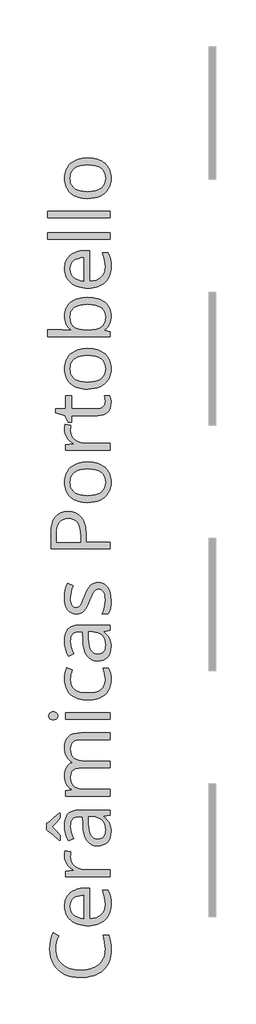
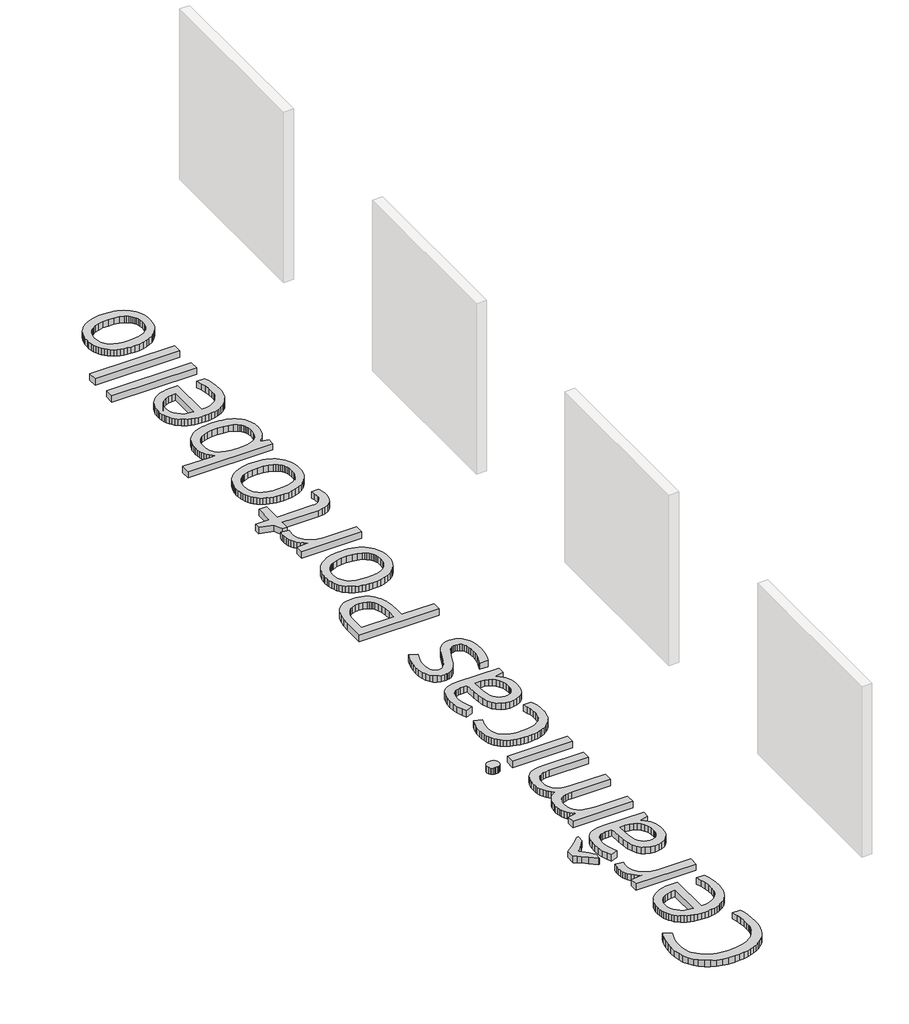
# One storey, part 2 of 7: 1 proxy.
"""IFC4 building model written with IfcOpenShell, lengths in millimetres."""

from ifc_helpers import new_model, si_unit, origin, origin_with_axes, place, context, project, spatial, polyline, outline, extrude, element, save

model = new_model("IFC4")

# Units and contexts
model_context = context("Model", 3, world=origin())
ifc_project = project(units=[si_unit("LENGTHUNIT", "METRE", prefix="MILLI")], contexts=[model_context])

# Site, building, storey
site = spatial("IfcSite", under=ifc_project)
building = spatial("IfcBuilding", under=site)
storey = spatial("IfcBuildingStorey", under=building, Name="PORTOBELLO - SHOWROOM", Elevation=0.0)

# Proxy
placement = place(None, origin())
element("IfcBuildingElementProxy", 1, Name="1200mm OpenSans", ObjectType="1200mm OpenSans", at=placement, inside=storey, context=model_context, shape_type="SweptSolid", body=[
    extrude(outline(polyline([(40739.6097026, -9834.3504783), (40741.7307499, -9882.5345887), (40748.0938918, -9928.1159796), (40758.6991283, -9971.0946512), (40773.5464594, -10011.4706033), (40792.6358851, -10049.2438361), (40815.9674053, -10084.4143495), (40843.5410202, -10116.9821434), (40875.3567297, -10146.947218), (40910.8624418, -10173.8194507), (40949.5060645, -10197.1087191), (40991.2875978, -10216.815023), (41036.2070417, -10232.9383627), (41084.2643962, -10245.4787379), (41135.4596613, -10254.4361488), (41189.7928371, -10259.8105954), (41247.2639234, -10261.6020775), (41306.2053772, -10259.8753817), (41361.7047065, -10254.695294), (41413.7619111, -10246.0618147), (41462.3769913, -10233.9749435), (41507.5499468, -10218.4346807), (41549.2807778, -10199.441026), (41587.5694842, -10176.9939797), (41622.416066, -10151.0935415), (41653.4712406, -10121.9988569), (41680.3857252, -10089.9690709), (41703.1595199, -10055.0041837), (41721.7926247, -10017.1041951), (41736.2850395, -9976.2691052), (41746.6367644, -9932.498914), (41752.8477993, -9885.7936215), (41754.9181443, -9836.1532277), (41752.1013484, -9771.0514413), (41743.6509607, -9701.5779877), (41729.5669813, -9627.7328669), (41709.8494102, -9549.5160789), (41826.6675689, -9549.5160789), (41845.7541778, -9615.5417743), (41859.3874699, -9688.8686047), (41867.5674451, -9769.49657), (41870.2941035, -9857.4256702), (41867.7561704, -9921.8739599), (41860.1423712, -9982.536476), (41847.4527057, -10039.4132185), (41829.6871741, -10092.5041872), (41806.8457763, -10141.8093823), (41778.9285123, -10187.3288038), (41745.9353822, -10229.0624515), (41707.8663859, -10267.0103256), (41665.1215084, -10300.8118762), (41618.1007347, -10330.1065534), (41566.8040649, -10354.8943571), (41511.231499, -10375.1752875), (41451.3830369, -10390.9493444), (41387.2586787, -10402.2165279), (41318.8584243, -10408.976838), (41246.1822738, -10411.2302747), (41155.3462402, -10406.8924091), (41070.3240734, -10393.8788121), (40991.1157732, -10372.1894838), (40917.7213397, -10341.8244242), (40851.2787585, -10303.2681222), (40792.926015, -10257.0050667), (40742.6631093, -10203.0352576), (40700.4900414, -10141.358695), (40667.127911, -10072.9330894), (40643.2978178, -9998.7161516), (40628.999762, -9918.7078814), (40624.2337433, -9832.9082788), (40628.2223263, -9741.4187486), (40640.1880752, -9655.8782913), (40660.13099, -9576.2869069), (40688.0510708, -9502.6445954), (40803.78758, -9561.7747745), (40775.7097586, -9629.9187005), (40755.6541719, -9698.0626264), (40743.6208199, -9766.2065524), (40739.6097026, -9834.3504783)])), origin_with_axes(), (0.0, 0.0, 1.0), 100.0),
    extrude(outline(polyline([(41870.2941035, -8926.4858988), (41868.3674152, -8975.1094293), (41862.58735, -9021.107706), (41852.9539081, -9064.480729), (41839.4670894, -9105.2284982), (41822.126894, -9143.3510136), (41800.9333218, -9178.8482753), (41775.8863728, -9211.7202832), (41746.9860471, -9241.9670374), (41714.6661311, -9269.0927817), (41679.3604115, -9292.6017602), (41641.0688883, -9312.4939727), (41599.7915615, -9328.7694193), (41555.528431, -9341.4281), (41508.2794969, -9350.4700147), (41458.0447592, -9355.8951636), (41404.8242178, -9357.7035466), (41351.0769356, -9356.0247362), (41300.1633501, -9350.9883052), (41252.0834612, -9342.5942535), (41206.8372689, -9330.842581), (41164.4247734, -9315.7332879), (41124.8459744, -9297.2663741), (41088.1008722, -9275.4418397), (41054.1894666, -9250.2596845), (41023.7258191, -9222.2494662), (40997.3239913, -9191.9407426), (40974.9839832, -9159.3335135), (40956.7057947, -9124.4277789), (40942.4894259, -9087.2235389), (40932.3348768, -9047.7207935), (40926.2421473, -9005.9195426), (40924.2112374, -8961.8197863), (40926.0083532, -8920.4748564), (40931.3997005, -8881.3495616), (40940.3852794, -8844.4439019), (40952.9650898, -8809.7578775), (40969.1391317, -8777.2914881), (40988.9074052, -8747.044734), (41012.2699103, -8719.017615), (41039.2266469, -8693.2101311), (41069.1297519, -8670.056069), (41101.3313624, -8649.9892151), (41135.8314784, -8633.0095695), (41172.6300998, -8619.1171322), (41211.7272266, -8608.3119032), (41253.1228589, -8600.5938825), (41296.8169966, -8595.9630701), (41342.8096397, -8594.419466), (41431.8654583, -8594.419466), (41431.8654583, -9216.0074466), (41506.4091445, -9209.5062817), (41571.398259, -9193.9688356), (41626.832802, -9169.3951083), (41650.9671091, -9153.7196393), (41672.7127733, -9135.7850999), (41691.9796571, -9115.7548644), (41708.6776231, -9093.7923069), (41734.3668015, -9044.070226), (41749.7803086, -8986.6188572), (41754.9181443, -8921.4382005), (41751.1098362, -8848.8099356), (41739.6849121, -8776.5872892), (41720.643372, -8704.7702614), (41693.9852158, -8633.3588522), (41813.6877735, -8633.3588522), (41839.6924331, -8703.8463523), (41857.1340332, -8770.3678039), (41867.0040859, -8841.6665412), (41870.2941035, -8926.4858988)]), holes=[polyline([(41039.5871967, -8963.2619858), (41044.1842076, -9014.786816), (41057.9752402, -9060.8357951), (41080.9602946, -9101.408923), (41113.1393708, -9136.5061996), (41153.430819, -9165.5417316), (41200.7529898, -9187.9296252), (41255.1058832, -9203.6698806), (41316.489499, -9212.7624977), (41316.489499, -8740.8027143), (41253.3482025, -8744.408213), (41198.0488658, -8755.2247092), (41150.5914888, -8773.2522028), (41110.9760715, -8798.4906939), (41079.7434388, -8830.421892), (41057.4344154, -8868.5275067), (41044.0490014, -8912.807538), (41039.5871967, -8963.2619858)])]), origin_with_axes(), (0.0, 0.0, 1.0), 100.0),
    extrude(outline(polyline([(40924.2112374, -7947.2324444), (40926.4646742, -7889.7247397), (40933.2249843, -7838.3463828), (41051.8458924, -7857.4555261), (41042.6518706, -7910.6366323), (41039.5871967, -7956.967291), (41045.2320557, -8010.2948706), (41062.1666325, -8059.5887985), (41090.3909272, -8104.8490747), (41129.9049399, -8146.0756992), (41177.8468057, -8180.384273), (41231.3546603, -8204.8903972), (41290.4285035, -8219.5940717), (41355.0683354, -8224.4952965), (41847.2189117, -8224.4952965), (41847.2189117, -8360.7831484), (40947.2864293, -8360.7831484), (40947.2864293, -8248.2915881), (41108.8127723, -8232.7879436), (41108.8127723, -8226.2980459), (41067.0115214, -8199.5948209), (41030.3030375, -8170.3226781), (40998.6873205, -8138.4816175), (40972.1643705, -8104.071639), (40951.1848748, -8067.4983613), (40936.1995207, -8029.167403), (40927.2083083, -7989.078764), (40924.2112374, -7947.2324444)])), origin_with_axes(), (0.0, 0.0, 1.0), 100.0),
    extrude(outline(polyline([(41847.2189117, -7107.8723406), (41715.6182081, -7135.274131), (41715.6182081, -7142.1245785), (41757.2166497, -7176.16274), (41791.5139563, -7210.1332983), (41818.5101281, -7244.0362535), (41838.2051649, -7277.8716056), (41852.2440755, -7313.7801195), (41862.2718689, -7353.90256), (41868.2885449, -7398.2389272), (41870.2941035, -7446.789221), (41865.8210317, -7510.8994953), (41852.4018161, -7567.6635659), (41830.0364568, -7617.0814328), (41798.7249538, -7659.1530961), (41759.1658724, -7692.7518373), (41712.0577781, -7716.7509382), (41657.4006709, -7731.1503988), (41595.1945506, -7735.950219), (41528.6449311, -7729.0434355), (41470.5118978, -7708.323085), (41420.7954505, -7673.7891675), (41379.4955893, -7625.441683), (41346.6123141, -7563.2806315), (41322.1456251, -7487.306013), (41306.0955222, -7397.5178275), (41298.4620054, -7293.916075), (41293.4143071, -7139.2401796), (41239.3318262, -7139.2401796), (41191.6378384, -7142.1245785), (41150.5914888, -7150.7777755), (41116.1927775, -7165.1997704), (41088.4417045, -7185.3905633), (41067.0678573, -7211.9360477), (41051.8008237, -7245.4221171), (41042.6406035, -7285.8487716), (41039.5871967, -7333.2160111), (41043.9137952, -7392.210984), (41056.8935906, -7454.9015932), (41078.526583, -7521.2878385), (41108.8127723, -7591.36972), (41003.5322095, -7633.914605), (40970.4066899, -7563.3369674), (40945.303405, -7486.449707), (40929.4842793, -7406.2273603), (40924.2112374, -7325.6444638), (40928.7181109, -7249.4445016), (40942.2387311, -7183.8131576), (40964.7730981, -7128.7504317), (40979.4204367, -7105.1823006), (40996.321212, -7084.256324), (41015.7064012, -7065.8767308), (41037.8069817, -7049.9477501), (41062.6229534, -7036.4693819), (41090.1543164, -7025.441626), (41153.3632159, -7010.7379515), (41227.4336804, -7005.8367266), (41847.2189117, -7005.8367266), (41847.2189117, -7107.8723406)]), holes=[polyline([(41754.9181443, -7419.7479806), (41750.5577442, -7358.4995709), (41737.4765442, -7304.1917463), (41715.674544, -7256.8245068), (41685.1517439, -7216.3978523), (41646.786984, -7184.0610356), (41601.4591047, -7160.9633094), (41549.1681059, -7147.1046737), (41489.9139878, -7142.4851284), (41408.7902664, -7142.4851284), (41414.5590644, -7281.2968294), (41419.877175, -7358.1164867), (41430.0627089, -7423.4436168), (41445.1156661, -7477.2782196), (41465.0360466, -7519.6202953), (41490.477347, -7551.6416309), (41522.0930639, -7574.5140134), (41559.8831975, -7588.237443), (41603.8477476, -7592.8119195), (41638.5957416, -7589.961322), (41668.9269996, -7581.4095298), (41694.8415217, -7567.1565426), (41716.3393079, -7547.2023606), (41733.2175488, -7522.1328772), (41745.2734352, -7492.5339861), (41752.506967, -7458.4056872), (41754.9181443, -7419.7479806)])]), origin_with_axes(), (0.0, 0.0, 1.0), 100.0),
    extrude(outline(polyline([(40812.4407769, -7617.6898607), (40712.929012, -7529.3551419), (40643.7034365, -7472.0277121), (40594.4883788, -7435.9727248), (40555.0081678, -7411.4553335), (40555.0081678, -7275.5280315), (40595.5700284, -7250.8754339), (40646.5878354, -7212.9726285), (40716.1739609, -7153.9776556), (40812.4407769, -7066.0485554), (40831.91047, -7066.0485554), (40831.91047, -7163.397021), (40804.1931986, -7201.7505138), (40768.2734175, -7244.7010173), (40671.8263265, -7344.3930572), (40769.535342, -7444.8963342), (40805.139642, -7486.9679975), (40831.91047, -7523.5863439), (40831.91047, -7617.6898607), (40812.4407769, -7617.6898607)])), origin_with_axes(), (0.0, 0.0, 1.0), 100.0),
    extrude(outline(polyline([(41847.2189117, -5572.2904326), (41256.6382201, -5572.2904326), (41205.7668865, -5575.1748316), (41161.6783974, -5583.8280285), (41124.3727527, -5598.2500234), (41093.8499526, -5618.4408163), (41070.1099969, -5644.7158883), (41053.1528857, -5677.3907205), (41042.978619, -5716.465313), (41039.5871967, -5761.9396657), (41044.1954748, -5821.5881352), (41058.020309, -5872.898889), (41081.0616993, -5915.871927), (41113.3196457, -5950.5072491), (41155.1546981, -5977.1654053), (41206.9274064, -5996.2069455), (41268.6377706, -6007.6318696), (41340.2857906, -6011.4401776), (41847.2189117, -6011.4401776), (41847.2189117, -6148.0885794), (41256.6382201, -6148.0885794), (41205.7668865, -6150.9729784), (41161.6783974, -6159.6261753), (41124.3727527, -6174.0481702), (41093.8499526, -6194.2389631), (41070.1099969, -6220.5591038), (41053.1528857, -6253.3691422), (41042.978619, -6292.6690784), (41039.5871967, -6338.4589122), (41044.4320856, -6398.5130004), (41058.9667524, -6449.9589603), (41083.191197, -6492.7967921), (41098.9370859, -6510.9876599), (41117.1054194, -6527.0264956), (41162.0389473, -6553.2114302), (41219.3213083, -6571.9149548), (41288.9525025, -6583.1370696), (41370.9325298, -6586.8777745), (41847.2189117, -6586.8777745), (41847.2189117, -6723.1656264), (40947.2864293, -6723.1656264), (40947.2864293, -6612.1162656), (41062.6623886, -6590.1227234), (41062.6623886, -6583.6328257), (41031.8241073, -6562.1913754), (41004.5687903, -6536.8064109), (40980.8964378, -6507.4779322), (40960.8070495, -6474.2059393), (40944.7963817, -6437.9143412), (40933.3601905, -6399.5270469), (40926.4984757, -6359.0440565), (40924.2112374, -6316.46537), (40926.577346, -6265.8419144), (40933.6756716, -6219.7929353), (40945.5062143, -6178.3184328), (40962.0689741, -6141.4184067), (40983.3639509, -6109.0928572), (41009.3911449, -6081.3417842), (41040.1505559, -6058.1651877), (41075.642184, -6039.5630677), (41075.642184, -6033.07317), (41042.4941301, -6010.6176732), (41012.9966436, -5983.6327687), (40987.1497246, -5952.1184564), (40964.9533731, -5916.0747363), (40947.1286887, -5876.4255175), (40934.3967714, -5834.094709), (40926.7576209, -5789.0823108), (40924.2112374, -5741.3883229), (40929.1462638, -5669.5825623), (40943.951343, -5607.3989765), (40955.0551523, -5579.9154991), (40968.6264749, -5554.8375653), (40984.6653106, -5532.1651753), (41003.1716596, -5511.8983289), (41024.3933997, -5494.0257591), (41048.5784092, -5478.5361985), (41075.7266879, -5465.4296473), (41105.8382358, -5454.7061054), (41174.9511396, -5440.4080495), (41255.9171204, -5435.6420308), (41847.2189117, -5435.6420308), (41847.2189117, -5572.2904326)])), origin_with_axes(), (0.0, 0.0, 1.0), 100.0),
    extrude(outline(polyline([(41847.2189117, -5021.7307769), (41847.2189117, -5158.0186288), (40947.2864293, -5158.0186288), (40947.2864293, -5021.7307769), (41847.2189117, -5021.7307769)])), origin_with_axes(), (0.0, 0.0, 1.0), 100.0),
    extrude(outline(polyline([(40693.098769, -5169.5562248), (40670.8911503, -5168.1140253), (40651.8608773, -5163.7874268), (40636.0079501, -5156.5764293), (40623.3323686, -5146.4810329), (40606.7020058, -5120.5214421), (40601.1585515, -5088.7930533), (40606.7921432, -5058.2364515), (40623.6929185, -5032.1867232), (40636.4811718, -5021.7758457), (40652.3115647, -5014.3395045), (40671.1840971, -5009.8776999), (40693.098769, -5008.3904316), (40715.0359753, -5009.8776999), (40733.9761108, -5014.3395045), (40749.9191755, -5021.7758457), (40762.8651694, -5032.1867232), (40780.0363571, -5058.2364515), (40785.7600863, -5088.7930533), (40780.0363571, -5120.5214421), (40772.8816955, -5134.2223372), (40762.8651694, -5146.4810329), (40749.9191755, -5156.5764293), (40733.9761108, -5163.7874268), (40715.0359753, -5168.1140253), (40693.098769, -5169.5562248)])), origin_with_axes(), (0.0, 0.0, 1.0), 100.0),
    extrude(outline(polyline([(41870.2941035, -4351.8291134), (41868.3871327, -4399.7428113), (41862.6662203, -4444.8735149), (41853.1313662, -4487.2212242), (41839.7825706, -4526.7859391), (41822.6198333, -4563.5676597), (41801.6431543, -4597.566386), (41776.8525338, -4628.782118), (41748.2479716, -4657.2148556), (41716.1562161, -4682.5660185), (41680.9040157, -4704.5370264), (41642.4913703, -4723.1278792), (41600.9182799, -4738.338577), (41556.1847445, -4750.1691197), (41508.2907641, -4758.6195073), (41457.2363388, -4763.6897399), (41403.0214685, -4765.3798174), (41347.4094674, -4763.6643887), (41295.0480488, -4758.5181026), (41245.9372126, -4749.9409592), (41200.0769588, -4737.9329583), (41157.4672875, -4722.4941001), (41118.1081987, -4703.6243845), (41081.9996923, -4681.3238115), (41049.1417684, -4655.5923812), (41019.8611752, -4626.6892386), (40994.4846611, -4594.8735291), (40973.0122261, -4560.1452527), (40955.4438702, -4522.5044094), (40941.7795934, -4481.9509991), (40932.0193956, -4438.4850218), (40926.163277, -4392.1064777), (40924.2112374, -4342.8153666), (40927.5463238, -4277.2403584), (40937.5515827, -4211.7554878), (40952.0637151, -4153.3914772), (40968.9194217, -4109.179049), (41081.7715318, -4151.3633841), (41065.2313064, -4199.181311), (41051.6656175, -4251.0554239), (41042.6068019, -4301.8478873), (41039.5871967, -4346.4208653), (41045.2264221, -4411.4043462), (41062.1440981, -4467.7233631), (41090.3402249, -4515.3779158), (41129.8148024, -4554.3680044), (41180.5678306, -4584.6936288), (41242.5993095, -4606.3547892), (41315.909239, -4619.3514854), (41400.4976193, -4623.6837174), (41481.148119, -4619.4585236), (41551.8384284, -4606.7829421), (41612.5685476, -4585.656973), (41663.3384766, -4556.0806163), (41684.8024612, -4538.1629777), (41703.4045812, -4518.2116125), (41719.1448366, -4496.2265206), (41732.0232273, -4472.2077021), (41742.0397535, -4446.155157), (41749.194415, -4418.0688853), (41754.9181443, -4355.795162), (41751.8760047, -4298.4902666), (41742.749586, -4240.5093402), (41727.5388883, -4181.8523827), (41706.2439114, -4122.5193943), (41824.8648196, -4122.5193943), (41844.7401313, -4171.0584209), (41858.9367825, -4225.456383), (41867.4547733, -4285.7132805), (41870.2941035, -4351.8291134)])), origin_with_axes(), (0.0, 0.0, 1.0), 100.0),
    extrude(outline(polyline([(41847.2189117, -3346.6160682), (41715.6182081, -3374.0178585), (41715.6182081, -3380.8683061), (41757.2166497, -3414.9064675), (41791.5139563, -3448.8770258), (41818.5101281, -3482.779981), (41838.2051649, -3516.6153332), (41852.2440755, -3552.523847), (41862.2718689, -3592.6462876), (41868.2885449, -3636.9826547), (41870.2941035, -3685.5329485), (41865.8210317, -3749.6432228), (41852.4018161, -3806.4072934), (41830.0364568, -3855.8251603), (41798.7249538, -3897.8968236), (41759.1658724, -3931.4955648), (41712.0577781, -3955.4946658), (41657.4006709, -3969.8941263), (41595.1945506, -3974.6939465), (41528.6449311, -3967.787163), (41470.5118978, -3947.0668125), (41420.7954505, -3912.532895), (41379.4955893, -3864.1854105), (41346.6123141, -3802.024359), (41322.1456251, -3726.0497405), (41306.0955222, -3636.261555), (41298.4620054, -3532.6598025), (41293.4143071, -3377.9839071), (41239.3318262, -3377.9839071), (41191.6378384, -3380.8683061), (41150.5914888, -3389.521503), (41116.1927775, -3403.9434979), (41088.4417045, -3424.1342908), (41067.0678573, -3450.6797752), (41051.8008237, -3484.1658446), (41042.6406035, -3524.5924991), (41039.5871967, -3571.9597386), (41043.9137952, -3630.9547115), (41056.8935906, -3693.6453207), (41078.526583, -3760.031566), (41108.8127723, -3830.1134475), (41003.5322095, -3872.6583325), (40970.4066899, -3802.0806949), (40945.303405, -3725.1934345), (40929.4842793, -3644.9710879), (40924.2112374, -3564.3881913), (40928.7181109, -3488.1882291), (40942.2387311, -3422.5568851), (40964.7730981, -3367.4941592), (40979.4204367, -3343.9260281), (40996.321212, -3323.0000515), (41015.7064012, -3304.6204584), (41037.8069817, -3288.6914777), (41062.6229534, -3275.2131094), (41090.1543164, -3264.1853535), (41153.3632159, -3249.481679), (41227.4336804, -3244.5804542), (41847.2189117, -3244.5804542), (41847.2189117, -3346.6160682)]), holes=[polyline([(41754.9181443, -3658.4917081), (41750.5577442, -3597.2432984), (41737.4765442, -3542.9354739), (41715.674544, -3495.5682343), (41685.1517439, -3455.1415799), (41646.786984, -3422.8047631), (41601.4591047, -3399.7070369), (41549.1681059, -3385.8484012), (41489.9139878, -3381.2288559), (41408.7902664, -3381.2288559), (41414.5590644, -3520.0405569), (41419.877175, -3596.8602142), (41430.0627089, -3662.1873443), (41445.1156661, -3716.0219471), (41465.0360466, -3758.3640228), (41490.477347, -3790.3853584), (41522.0930639, -3813.257741), (41559.8831975, -3826.9811705), (41603.8477476, -3831.555647), (41638.5957416, -3828.7050496), (41668.9269996, -3820.1532573), (41694.8415217, -3805.9002701), (41716.3393079, -3785.9460881), (41733.2175488, -3760.8766048), (41745.2734352, -3731.2777136), (41752.506967, -3697.1494147), (41754.9181443, -3658.4917081)])]), origin_with_axes(), (0.0, 0.0, 1.0), 100.0),
    extrude(outline(polyline([(41604.5688473, -2377.0974603), (41664.7243402, -2382.9901973), (41692.0557106, -2390.3561186), (41717.5561637, -2400.6684083), (41741.2256995, -2413.9270665), (41763.0643179, -2430.1320932), (41783.0720191, -2449.2834884), (41801.2488029, -2471.3812521), (41831.4561219, -2523.2666322), (41853.0327784, -2584.6389808), (41865.9787722, -2655.498298), (41870.2941035, -2735.8445837), (41866.7336735, -2820.8667506), (41856.0523836, -2896.0188647), (41838.2502336, -2961.300926), (41813.3272236, -3016.7129346), (41685.6925687, -3016.7129346), (41714.4013523, -2949.019696), (41736.3498258, -2876.4590341), (41750.2760646, -2802.9068601), (41754.9181443, -2732.239085), (41752.7773794, -2681.4578889), (41746.3550848, -2636.9187124), (41735.6512604, -2598.6215556), (41720.6659063, -2566.5664185), (41701.2863507, -2541.2490571), (41677.3999216, -2523.1652275), (41649.0066191, -2512.3149298), (41616.1064432, -2508.6981639), (41590.3947304, -2511.5712957), (41566.6209732, -2520.1906911), (41544.7851715, -2534.5563501), (41524.8873254, -2554.6682727), (41505.1021512, -2583.0953767), (41483.604365, -2622.40658), (41435.470957, -2733.6812845), (41390.9430477, -2841.9363838), (41352.5444863, -2913.595671), (41314.8219558, -2960.1516733), (41294.1692084, -2978.3256403), (41272.3221396, -2993.0969179), (41248.7624588, -3004.5331092), (41222.9718758, -3012.7018173), (41194.9503903, -3017.6030421), (41164.6980026, -3019.2367837), (41111.9225149, -3013.6031919), (41065.0059628, -2996.7024167), (41023.948346, -2968.5344578), (40988.7496647, -2929.0993155), (40960.5141028, -2879.8391892), (40940.3458443, -2822.1962782), (40928.2448892, -2756.1705828), (40924.2112374, -2681.7621028), (40927.9519424, -2609.1338378), (40939.1740572, -2537.2717413), (40957.8775818, -2466.1758133), (40984.0625163, -2395.8460537), (41095.472427, -2444.8808364), (41071.0226388, -2511.5825629), (41053.5585043, -2575.0393405), (41043.0800236, -2635.2511692), (41039.5871967, -2692.2180491), (41041.5138851, -2738.0754861), (41047.2939503, -2777.9387814), (41056.9273922, -2811.807935), (41070.4142108, -2839.6829471), (41087.3037189, -2861.4511456), (41107.1452291, -2876.9998589), (41129.9387414, -2886.3290869), (41155.6842558, -2889.4388295), (41189.71115, -2884.7967499), (41218.2396587, -2870.8705111), (41243.3880123, -2846.5784634), (41267.2744414, -2810.8389573), (41295.80295, -2750.3567161), (41334.8775425, -2651.8364634), (41364.4877008, -2577.7772661), (41394.1879966, -2516.7654673), (41423.9784298, -2468.801067), (41453.8590005, -2433.8840653), (41485.7225955, -2409.0399256), (41521.4621017, -2391.2941116), (41561.0775189, -2380.6466232), (41604.5688473, -2377.0974603)])), origin_with_axes(), (0.0, 0.0, 1.0), 100.0),
    extrude(outline(polyline([(40990.9129639, -932.0135704), (41034.3338724, -933.9627931), (41075.1802295, -939.8104614), (41113.4520351, -949.5565751), (41149.1492893, -963.2011344), (41182.2719921, -980.7441391), (41212.8201434, -1002.1855894), (41240.7937433, -1027.5254851), (41266.1927917, -1056.7638263), (41288.7975787, -1089.6358343), (41308.388394, -1125.8767301), (41324.9652378, -1165.4865138), (41338.52811, -1208.4651853), (41349.0770105, -1254.8127447), (41356.6119395, -1304.529192), (41361.1328969, -1357.6145272), (41362.6398827, -1414.0687502), (41362.6398827, -1555.7648502), (41847.2189117, -1555.7648502), (41847.2189117, -1695.297651), (40647.3089352, -1695.297651), (40647.3089352, -1383.0614612), (40652.6777481, -1277.3471118), (40668.784187, -1185.728009), (40695.6282517, -1108.2041527), (40733.2099424, -1044.7755431), (40781.5292589, -995.44218), (40840.5862013, -960.2040636), (40910.3807697, -939.0611937), (40990.9129639, -932.0135704)]), holes=[polyline([(41247.2639234, -1555.7648502), (41247.2639234, -1429.5723948), (41243.5457529, -1342.8150816), (41232.3912412, -1268.9474265), (41213.8003884, -1207.9694292), (41187.7731944, -1159.88109), (41171.7737938, -1140.3606945), (41153.5209565, -1123.4430184), (41133.0146825, -1109.1280618), (41110.2549718, -1097.4158245), (41057.9752402, -1081.7995081), (40996.6817619, -1076.5940693), (40941.3260892, -1081.4952942), (40893.5194295, -1096.1989687), (40853.2617828, -1120.7050928), (40820.553149, -1155.0136667), (40795.2357877, -1199.665515), (40777.1519581, -1255.2014626), (40766.3016604, -1321.6215094), (40762.6848945, -1398.9256556), (40762.6848945, -1555.7648502), (41247.2639234, -1555.7648502)])]), origin_with_axes(), (0.0, 0.0, 1.0), 100.0),
    extrude(outline(polyline([(41396.5315707, 75.3627741), (41450.7971434, 73.6304446), (41502.0036757, 68.4334562), (41550.1511677, 59.7718089), (41595.2396194, 47.6455026), (41637.2690307, 32.0545374), (41676.2394017, 12.9989133), (41712.1507324, -9.5213698), (41745.0030228, -35.5063118), (41774.3681198, -64.5390269), (41799.8178706, -96.2026294), (41821.3522751, -130.4971193), (41838.9713333, -167.4224965), (41852.6750453, -206.978761), (41862.463411, -249.1659129), (41868.3364304, -293.9839522), (41870.2941035, -341.4328788), (41866.699872, -400.1236378), (41855.9171774, -455.4117073), (41837.9460196, -507.2970875), (41812.7863988, -555.7797782), (41780.9115366, -599.8908017), (41742.7946548, -638.6611802), (41698.4357533, -672.0909137), (41647.834832, -700.1800022), (41591.8369299, -722.4214225), (41531.2870857, -738.3081512), (41466.1852993, -747.8401885), (41396.5315707, -751.0175343), (41342.2772653, -749.2992888), (41291.1045345, -744.1445523), (41243.0133784, -735.5533249), (41198.0037971, -723.5256065), (41156.0757904, -708.0613971), (41117.2293584, -689.1606967), (41081.4645011, -666.8235054), (41048.7812185, -641.0498231), (41019.5851292, -612.222734), (40994.2818518, -580.7253225), (40972.8713863, -546.5575885), (40955.3537327, -509.7195319), (40941.728891, -470.2111529), (40931.9968613, -428.0324514), (40926.1576434, -383.1834274), (40924.2112374, -335.6640809), (40926.2027121, -289.7305904), (40932.1771362, -246.2139109), (40942.1345096, -205.1140422), (40956.0748325, -166.4309843), (40973.9981046, -130.1647374), (40995.9043262, -96.3153013), (41021.7934971, -64.882676), (41051.6656175, -35.8668617), (41084.9347936, -9.7974158), (41121.0151321, 12.796104), (41159.9066328, 31.9136976), (41201.6092958, 47.5553651), (41246.1231211, 59.7211065), (41293.4481087, 68.4109218), (41343.5842586, 73.624811), (41396.5315707, 75.3627741)]), holes=[polyline([(41395.4499211, -609.3214343), (41478.015842, -605.0173702), (41550.1258165, -592.1051778), (41611.7798448, -570.5848573), (41638.685879, -556.596649), (41662.9779267, -540.4564086), (41684.5264152, -522.2317392), (41703.2017719, -501.990244), (41719.0039968, -479.731923), (41731.9330899, -455.4567761), (41741.9890512, -429.1648033), (41749.1718807, -400.8560047), (41754.9181443, -338.18793), (41749.194415, -275.4973208), (41742.0397535, -247.1603543), (41732.0232273, -220.8289464), (41719.1448366, -196.5030972), (41703.4045812, -174.1828066), (41684.8024612, -153.8680747), (41663.3384766, -135.5589015), (41639.1196656, -119.3341572), (41612.2530665, -105.2727122), (41550.5765039, -83.6397198), (41478.3087888, -70.6599244), (41395.4499211, -66.3333259), (41313.4360923, -70.6599244), (41241.9007441, -83.6397198), (41180.8438766, -105.2727122), (41154.2448731, -119.3341572), (41130.2654897, -135.5589015), (41109.0127648, -153.8962427), (41090.5937365, -174.2954784), (41075.0084049, -196.7566088), (41062.25677, -221.2796337), (41052.3388317, -247.8645533), (41045.25459, -276.5113674), (41039.5871967, -339.9906793), (41045.1757198, -402.6024182), (41052.1613735, -430.8407969), (41061.9412888, -457.0341818), (41074.5154656, -481.1825729), (41089.883904, -503.2859701), (41108.0466038, -523.3443736), (41129.0035652, -541.3577833), (41152.7266201, -557.286764), (41179.1876006, -571.0918806), (41240.3233384, -592.3305215), (41312.4107786, -605.0737061), (41395.4499211, -609.3214343)])]), origin_with_axes(), (0.0, 0.0, 1.0), 100.0),
    extrude(outline(polyline([(40924.2112374, 729.0396934), (40926.4646742, 786.5473981), (40933.2249843, 837.9257549), (41051.8458924, 818.8166117), (41042.6518706, 765.6355054), (41039.5871967, 719.3048468), (41045.2320557, 665.9772672), (41062.1666325, 616.6833393), (41090.3909272, 571.4230631), (41129.9049399, 530.1964385), (41177.8468057, 495.8878647), (41231.3546603, 471.3817405), (41290.4285035, 456.6780661), (41355.0683354, 451.7768412), (41847.2189117, 451.7768412), (41847.2189117, 315.4889893), (40947.2864293, 315.4889893), (40947.2864293, 427.9805496), (41108.8127723, 443.4841941), (41108.8127723, 449.9740919), (41067.0115214, 476.6773168), (41030.3030375, 505.9494596), (40998.6873205, 537.7905202), (40972.1643705, 572.2004987), (40951.1848748, 608.7737764), (40936.1995207, 647.1047348), (40927.2083083, 687.1933738), (40924.2112374, 729.0396934)])), origin_with_axes(), (0.0, 0.0, 1.0), 100.0),
    extrude(outline(polyline([(41754.9181443, 1301.5928913), (41749.5098962, 1372.2606663), (41738.3328501, 1426.3431472), (41845.0556124, 1426.3431472), (41854.9707339, 1398.6709445), (41863.0831061, 1360.3625205), (41868.4913542, 1318.9894226), (41870.2941035, 1282.1231982), (41866.0125738, 1220.2663606), (41853.1679846, 1166.6571014), (41831.7603359, 1121.2954205), (41801.7896277, 1084.181318), (41763.2558601, 1055.3147938), (41716.1590329, 1034.695848), (41660.4991463, 1022.3244805), (41596.2762002, 1018.2006913), (41062.6623886, 1018.2006913), (41062.6623886, 887.6816374), (40995.2395624, 887.6816374), (40936.830483, 1017.4795916), (40739.6097026, 1075.5281211), (40739.6097026, 1154.8490931), (40947.2864293, 1154.8490931), (40947.2864293, 1419.8532495), (41062.6623886, 1419.8532495), (41062.6623886, 1154.8490931), (41587.9835532, 1154.8490931), (41626.0102976, 1157.2940719), (41659.3273592, 1164.6290084), (41687.9347382, 1176.8539025), (41711.8324345, 1193.9687543), (41730.6824325, 1215.3651358), (41744.1467168, 1240.4346191), (41752.2252874, 1269.1772043), (41754.9181443, 1301.5928913)])), origin_with_axes(), (0.0, 0.0, 1.0), 100.0),
    extrude(outline(polyline([(41396.5315707, 2382.8819596), (41450.7971434, 2381.1496302), (41502.0036757, 2375.9526418), (41550.1511677, 2367.2909944), (41595.2396194, 2355.1646882), (41637.2690307, 2339.573723), (41676.2394017, 2320.5180988), (41712.1507324, 2297.9978158), (41745.0030228, 2272.0128738), (41774.3681198, 2242.9801586), (41799.8178706, 2211.3165561), (41821.3522751, 2177.0220663), (41838.9713333, 2140.0966891), (41852.6750453, 2100.5404245), (41862.463411, 2058.3532726), (41868.3364304, 2013.5352334), (41870.2941035, 1966.0863067), (41866.699872, 1907.3955478), (41855.9171774, 1852.1074782), (41837.9460196, 1800.2220981), (41812.7863988, 1751.7394074), (41780.9115366, 1707.6283839), (41742.7946548, 1668.8580054), (41698.4357533, 1635.4282719), (41647.834832, 1607.3391834), (41591.8369299, 1585.0977631), (41531.2870857, 1569.2110343), (41466.1852993, 1559.6789971), (41396.5315707, 1556.5016513), (41342.2772653, 1558.2198968), (41291.1045345, 1563.3746333), (41243.0133784, 1571.9658607), (41198.0037971, 1583.9935791), (41156.0757904, 1599.4577885), (41117.2293584, 1618.3584889), (41081.4645011, 1640.6956802), (41048.7812185, 1666.4693625), (41019.5851292, 1695.2964515), (40994.2818518, 1726.7938631), (40972.8713863, 1760.9615971), (40955.3537327, 1797.7996536), (40941.728891, 1837.3080327), (40931.9968613, 1879.4867342), (40926.1576434, 1924.3357582), (40924.2112374, 1971.8551047), (40926.2027121, 2017.7885951), (40932.1771362, 2061.3052747), (40942.1345096, 2102.4051434), (40956.0748325, 2141.0882012), (40973.9981046, 2177.3544482), (40995.9043262, 2211.2038843), (41021.7934971, 2242.6365095), (41051.6656175, 2271.6523239), (41084.9347936, 2297.7217698), (41121.0151321, 2320.3152895), (41159.9066328, 2339.4328832), (41201.6092958, 2355.0745507), (41246.1231211, 2367.2402921), (41293.4481087, 2375.9301074), (41343.5842586, 2381.1439966), (41396.5315707, 2382.8819596)]), holes=[polyline([(41395.4499211, 1698.1977513), (41478.015842, 1702.5018154), (41550.1258165, 1715.4140077), (41611.7798448, 1736.9343283), (41638.685879, 1750.9225366), (41662.9779267, 1767.062777), (41684.5264152, 1785.2874463), (41703.2017719, 1805.5289415), (41719.0039968, 1827.7872626), (41731.9330899, 1852.0624095), (41741.9890512, 1878.3543822), (41749.1718807, 1906.6631808), (41754.9181443, 1969.3312556), (41749.194415, 2032.0218647), (41742.0397535, 2060.3588313), (41732.0232273, 2086.6902392), (41719.1448366, 2111.0160884), (41703.4045812, 2133.336379), (41684.8024612, 2153.6511109), (41663.3384766, 2171.9602841), (41639.1196656, 2188.1850284), (41612.2530665, 2202.2464734), (41550.5765039, 2223.8794658), (41478.3087888, 2236.8592612), (41395.4499211, 2241.1858597), (41313.4360923, 2236.8592612), (41241.9007441, 2223.8794658), (41180.8438766, 2202.2464734), (41154.2448731, 2188.1850284), (41130.2654897, 2171.9602841), (41109.0127648, 2153.6229429), (41090.5937365, 2133.2237071), (41075.0084049, 2110.7625768), (41062.25677, 2086.2395518), (41052.3388317, 2059.6546323), (41045.25459, 2031.0078182), (41039.5871967, 1967.5285062), (41045.1757198, 1904.9167674), (41052.1613735, 1876.6783887), (41061.9412888, 1850.4850038), (41074.5154656, 1826.3366127), (41089.883904, 1804.2332154), (41108.0466038, 1784.174812), (41129.0035652, 1766.1614023), (41152.7266201, 1750.2324216), (41179.1876006, 1736.427305), (41240.3233384, 1715.1886641), (41312.4107786, 1702.4454795), (41395.4499211, 1698.1977513)])]), origin_with_axes(), (0.0, 0.0, 1.0), 100.0),
    extrude(outline(polyline([(40924.2112374, 3044.1304263), (40926.135109, 3087.6752738), (40931.9067238, 3128.713173), (40941.5260817, 3167.2441238), (40954.9931828, 3203.2681263), (40972.3080271, 3236.7851805), (40993.4706146, 3267.7952864), (41018.4809452, 3296.2984439), (41047.339019, 3322.2946531), (41079.712454, 3345.4909672), (41115.2688685, 3365.5944394), (41154.0082622, 3382.6050697), (41195.9306353, 3396.5228581), (41241.0359877, 3407.3478047), (41289.3243195, 3415.0799094), (41340.7956307, 3419.7191722), (41395.4499211, 3421.2655931), (41450.2140666, 3419.7050882), (41501.834668, 3415.0235735), (41550.3117251, 3407.2210489), (41595.645238, 3396.2975145), (41637.8352067, 3382.2529702), (41676.8816312, 3365.0874161), (41712.7845115, 3344.8008522), (41745.5438476, 3321.3932784), (41774.7821888, 3295.2196111), (41800.1220845, 3266.6347665), (41821.5635348, 3235.6387446), (41839.1065395, 3202.2315455), (41852.7510988, 3166.413169), (41862.4972125, 3128.1836153), (41868.3448808, 3087.5428844), (41870.2941035, 3044.4909761), (41868.2322089, 3001.1010524), (41862.0465252, 2959.6265498), (41851.7370523, 2920.0674685), (41837.3037902, 2882.4238083), (41818.5889983, 2847.2363942), (41795.4349362, 2815.0460509), (41767.8416038, 2785.8527784), (41735.809001, 2759.6565767), (41735.809001, 2749.5611802), (41847.2189117, 2720.7171904), (41847.2189117, 2623.0081749), (40578.0833596, 2623.0081749), (40578.0833596, 2759.2960268), (40879.1425034, 2759.2960268), (40975.2290444, 2757.6735524), (41060.8596392, 2752.8061291), (41060.8596392, 2759.2960268), (41028.8326701, 2784.8049303), (41001.0759634, 2813.1982328), (40977.5895194, 2844.4759342), (40958.3733379, 2878.6380347), (40943.4274189, 2915.6845341), (40932.7517626, 2955.6154325), (40926.3463687, 2998.4307299), (40924.2112374, 3044.1304263)]), holes=[polyline([(41039.5871967, 3025.021283), (41044.6799637, 2959.2998015), (41059.9582645, 2903.4709072), (41071.4169902, 2879.2661801), (41085.4220993, 2857.5345999), (41101.9735919, 2838.2761665), (41121.071468, 2821.4908798), (41143.1833156, 2806.9139612), (41168.776723, 2794.2806316), (41230.4082169, 2774.8447401), (41305.9659496, 2763.1832051), (41395.4499211, 2759.2960268), (41485.1930379, 2763.2958769), (41561.1676564, 2775.2954274), (41623.3737766, 2795.2946781), (41649.3136499, 2808.2941911), (41671.8113986, 2823.2936292), (41691.2895421, 2840.4958016), (41708.1705998, 2860.1035178), (41722.4545717, 2882.1167776), (41734.1414578, 2906.5355811), (41749.7239727, 2962.5898191), (41754.9181443, 3028.2662319), (41749.0930104, 3087.8358311), (41741.811593, 3114.5700408), (41731.6176087, 3139.2705239), (41718.5110575, 3161.9372804), (41702.4919393, 3182.5703102), (41683.5602542, 3201.1696134), (41661.7160021, 3217.73519), (41610.0334313, 3244.9454382), (41548.187861, 3264.3813298), (41476.1792911, 3276.0428647), (41394.0077216, 3279.930043), (41310.2812809, 3276.0428647), (41237.9346955, 3264.3813298), (41176.9679654, 3244.9454382), (41127.3810907, 3217.73519), (41106.8043968, 3201.1189111), (41088.9712621, 3182.3675009), (41073.8816866, 3161.4809594), (41061.5356702, 3138.4592867), (41051.9332131, 3113.3024827), (41045.0743151, 3086.0105474), (41039.5871967, 3025.021283)])]), origin_with_axes(), (0.0, 0.0, 1.0), 100.0),
    extrude(outline(polyline([(41870.2941035, 4041.7719241), (41868.3674152, 3993.1483936), (41862.58735, 3947.1501169), (41852.9539081, 3903.7770939), (41839.4670894, 3863.0293247), (41822.126894, 3824.9068093), (41800.9333218, 3789.4095476), (41775.8863728, 3756.5375397), (41746.9860471, 3726.2907855), (41714.6661311, 3699.1650412), (41679.3604115, 3675.6560627), (41641.0688883, 3655.7638502), (41599.7915615, 3639.4884036), (41555.528431, 3626.8297229), (41508.2794969, 3617.7878082), (41458.0447592, 3612.3626593), (41404.8242178, 3610.5542763), (41351.0769356, 3612.2330867), (41300.1633501, 3617.2695177), (41252.0834612, 3625.6635694), (41206.8372689, 3637.4152419), (41164.4247734, 3652.524535), (41124.8459744, 3670.9914488), (41088.1008722, 3692.8159832), (41054.1894666, 3717.9981384), (41023.7258191, 3746.0083567), (40997.3239913, 3776.3170803), (40974.9839832, 3808.9243095), (40956.7057947, 3843.830044), (40942.4894259, 3881.034284), (40932.3348768, 3920.5370294), (40926.2421473, 3962.3382803), (40924.2112374, 4006.4380366), (40926.0083532, 4047.7829666), (40931.3997005, 4086.9082613), (40940.3852794, 4123.813921), (40952.9650898, 4158.4999454), (40969.1391317, 4190.9663348), (40988.9074052, 4221.2130889), (41012.2699103, 4249.240208), (41039.2266469, 4275.0476918), (41069.1297519, 4298.201754), (41101.3313624, 4318.2686078), (41135.8314784, 4335.2482534), (41172.6300998, 4349.1406907), (41211.7272266, 4359.9459197), (41253.1228589, 4367.6639404), (41296.8169966, 4372.2947528), (41342.8096397, 4373.8383569), (41431.8654583, 4373.8383569), (41431.8654583, 3752.2503763), (41506.4091445, 3758.7515412), (41571.398259, 3774.2889873), (41626.832802, 3798.8627146), (41650.9671091, 3814.5381836), (41672.7127733, 3832.472723), (41691.9796571, 3852.5029585), (41708.6776231, 3874.465516), (41734.3668015, 3924.1875969), (41749.7803086, 3981.6389657), (41754.9181443, 4046.8196224), (41751.1098362, 4119.4478874), (41739.6849121, 4191.6705337), (41720.643372, 4263.4875615), (41693.9852158, 4334.8989707), (41813.6877735, 4334.8989707), (41839.6924331, 4264.4114706), (41857.1340332, 4197.890019), (41867.0040859, 4126.5912817), (41870.2941035, 4041.7719241)]), holes=[polyline([(41039.5871967, 4004.9958371), (41044.1842076, 3953.4710069), (41057.9752402, 3907.4220278), (41080.9602946, 3866.8488999), (41113.1393708, 3831.7516233), (41153.430819, 3802.7160913), (41200.7529898, 3780.3281977), (41255.1058832, 3764.5879423), (41316.489499, 3755.4953252), (41316.489499, 4227.4551086), (41253.3482025, 4223.8496099), (41198.0488658, 4213.0331137), (41150.5914888, 4195.0056201), (41110.9760715, 4169.767129), (41079.7434388, 4137.8359309), (41057.4344154, 4099.7303162), (41044.0490014, 4055.4502849), (41039.5871967, 4004.9958371)])]), origin_with_axes(), (0.0, 0.0, 1.0), 100.0),
    extrude(outline(polyline([(41847.2189117, 4739.075378), (41847.2189117, 4602.7875261), (40578.0833596, 4602.7875261), (40578.0833596, 4739.075378), (41847.2189117, 4739.075378)])), origin_with_axes(), (0.0, 0.0, 1.0), 100.0),
    extrude(outline(polyline([(41847.2189117, 5177.5040233), (41847.2189117, 5041.2161714), (40578.0833596, 5041.2161714), (40578.0833596, 5177.5040233), (41847.2189117, 5177.5040233)])), origin_with_axes(), (0.0, 0.0, 1.0), 100.0),
    extrude(outline(polyline([(41396.5315707, 6259.5141914), (41450.7971434, 6257.7818619), (41502.0036757, 6252.5848735), (41550.1511677, 6243.9232262), (41595.2396194, 6231.7969199), (41637.2690307, 6216.2059547), (41676.2394017, 6197.1503306), (41712.1507324, 6174.6300475), (41745.0030228, 6148.6451055), (41774.3681198, 6119.6123904), (41799.8178706, 6087.9487879), (41821.3522751, 6053.654298), (41838.9713333, 6016.7289208), (41852.6750453, 5977.1726563), (41862.463411, 5934.9855044), (41868.3364304, 5890.1674651), (41870.2941035, 5842.7185385), (41866.699872, 5784.0277795), (41855.9171774, 5728.73971), (41837.9460196, 5676.8543299), (41812.7863988, 5628.3716392), (41780.9115366, 5584.2606157), (41742.7946548, 5545.4902372), (41698.4357533, 5512.0605036), (41647.834832, 5483.9714151), (41591.8369299, 5461.7299949), (41531.2870857, 5445.8432661), (41466.1852993, 5436.3112288), (41396.5315707, 5433.1338831), (41342.2772653, 5434.8521286), (41291.1045345, 5440.006865), (41243.0133784, 5448.5980925), (41198.0037971, 5460.6258109), (41156.0757904, 5476.0900203), (41117.2293584, 5494.9907206), (41081.4645011, 5517.3279119), (41048.7812185, 5543.1015943), (41019.5851292, 5571.9286833), (40994.2818518, 5603.4260948), (40972.8713863, 5637.5938289), (40955.3537327, 5674.4318854), (40941.728891, 5713.9402644), (40931.9968613, 5756.1189659), (40926.1576434, 5800.96799), (40924.2112374, 5848.4873365), (40926.2027121, 5894.4208269), (40932.1771362, 5937.9375065), (40942.1345096, 5979.0373752), (40956.0748325, 6017.720433), (40973.9981046, 6053.98668), (40995.9043262, 6087.8361161), (41021.7934971, 6119.2687413), (41051.6656175, 6148.2845557), (41084.9347936, 6174.3540015), (41121.0151321, 6196.9475213), (41159.9066328, 6216.0651149), (41201.6092958, 6231.7067825), (41246.1231211, 6243.8725239), (41293.4481087, 6252.5623392), (41343.5842586, 6257.7762283), (41396.5315707, 6259.5141914)]), holes=[polyline([(41395.4499211, 5574.8299831), (41478.015842, 5579.1340472), (41550.1258165, 5592.0462395), (41611.7798448, 5613.56656), (41638.685879, 5627.5547684), (41662.9779267, 5643.6950088), (41684.5264152, 5661.9196781), (41703.2017719, 5682.1611733), (41719.0039968, 5704.4194944), (41731.9330899, 5728.6946413), (41741.9890512, 5754.986614), (41749.1718807, 5783.2954126), (41754.9181443, 5845.9634874), (41749.194415, 5908.6540965), (41742.0397535, 5936.991063), (41732.0232273, 5963.3224709), (41719.1448366, 5987.6483202), (41703.4045812, 6009.9686107), (41684.8024612, 6030.2833426), (41663.3384766, 6048.5925158), (41639.1196656, 6064.8172601), (41612.2530665, 6078.8787052), (41550.5765039, 6100.5116975), (41478.3087888, 6113.4914929), (41395.4499211, 6117.8180914), (41313.4360923, 6113.4914929), (41241.9007441, 6100.5116975), (41180.8438766, 6078.8787052), (41154.2448731, 6064.8172601), (41130.2654897, 6048.5925158), (41109.0127648, 6030.2551747), (41090.5937365, 6009.8559389), (41075.0084049, 5987.3948085), (41062.25677, 5962.8717836), (41052.3388317, 5936.2868641), (41045.25459, 5907.64005), (41039.5871967, 5844.160738), (41045.1757198, 5781.5489992), (41052.1613735, 5753.3106205), (41061.9412888, 5727.1172356), (41074.5154656, 5702.9688445), (41089.883904, 5680.8654472), (41108.0466038, 5660.8070437), (41129.0035652, 5642.7936341), (41152.7266201, 5626.8646534), (41179.1876006, 5613.0595368), (41240.3233384, 5591.8208958), (41312.4107786, 5579.0777112), (41395.4499211, 5574.8299831)])]), origin_with_axes(), (0.0, 0.0, 1.0), 100.0),
])

save(model, "model.ifc")
